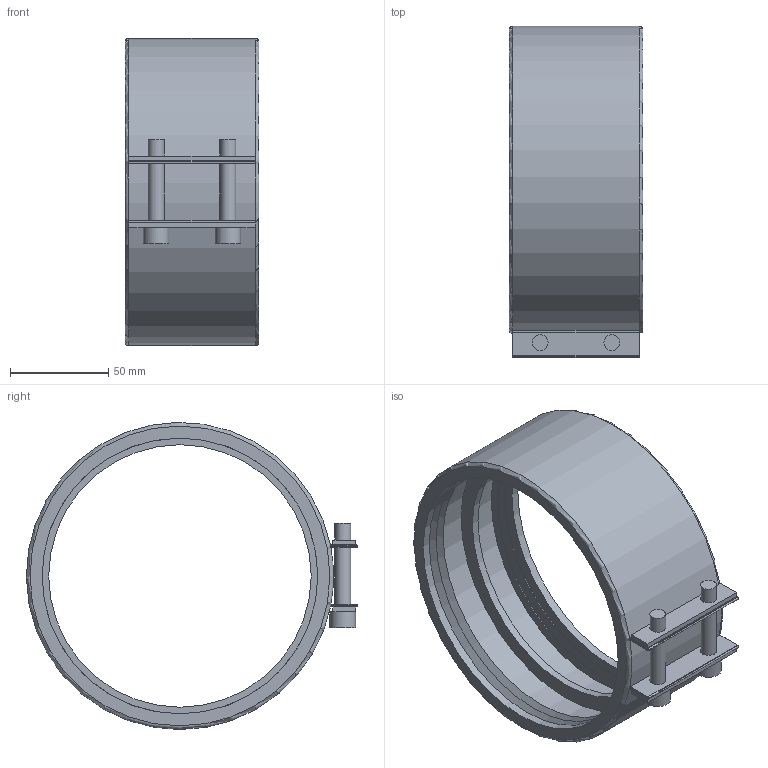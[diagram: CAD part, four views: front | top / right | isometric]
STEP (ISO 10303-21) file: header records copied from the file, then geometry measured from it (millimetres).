
FILE_DESCRIPTION( ( 'STEP AP214' ), '1' );
FILE_NAME( 'C:/Users/ilukic/Documents/ex/gebaudeentwasserung/pe/Geberit adapter clamping connector/359445.stp', '2020-03-26T18:41:20', ( '' ), ( '' ), ' ', 'PARTsolutions', ' ' );
FILE_SCHEMA( ( 'AUTOMOTIVE_DESIGN { 1 0 10303 214 1 1 1 1 }' ) );
Length unit declared in the file: millimetre
Products named in the file (1): _359445
Bounding box: 68 x 168.25 x 155.98 mm (x, y, z)
Volume: 161456.3 mm3; surface area: 110660.1 mm2
Topology: 1 solids, 1 shells, 121 faces, 309 edges, 202 vertices
Faces by surface type: plane 91, cylinder 22, cone 6, torus 2
Full cylindrical faces by diameter (mm): 8 x8, 13 x2, 133.333 x1, 140 x2, 149.712 x2
Entity records: 4378 total; most frequent: CARTESIAN_POINT 680, DIRECTION 544, ORIENTED_EDGE 536, EDGE_CURVE 268, AXIS2_PLACEMENT_3D 192, VERTEX_POINT 184, EDGE_LOOP 168, LINE 160
